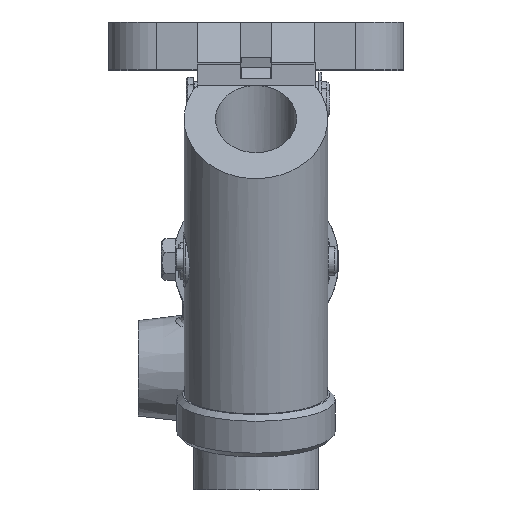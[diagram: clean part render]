
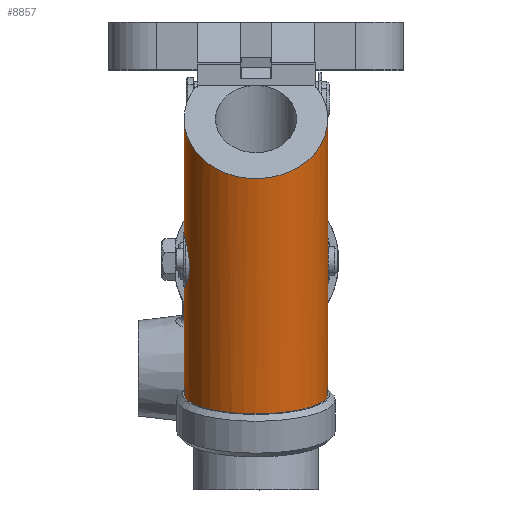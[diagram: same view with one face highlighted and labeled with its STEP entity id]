
A CAD part, top view. The second image highlights one B-rep face of the part: STEP entity #8857.
In plain terms, the highlighted cylindrical face has radius 19.5 mm (diameter 39 mm), a partial arc.
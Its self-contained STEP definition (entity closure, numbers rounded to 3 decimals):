
#49=ELLIPSE('',#9351,20.751,19.5);
#50=ELLIPSE('',#9356,20.751,19.5);
#51=ELLIPSE('',#9359,20.751,19.5);
#52=ELLIPSE('',#9362,22.517,19.5);
#53=ELLIPSE('',#9365,20.751,19.5);
#119=LINE('',#12530,#560);
#120=LINE('',#12531,#561);
#124=LINE('',#12541,#565);
#125=LINE('',#12543,#566);
#127=LINE('',#12549,#568);
#128=LINE('',#12553,#569);
#131=LINE('',#12561,#572);
#560=VECTOR('',#10364,1000.);
#561=VECTOR('',#10365,1000.);
#565=VECTOR('',#10375,1000.);
#566=VECTOR('',#10376,1000.);
#568=VECTOR('',#10384,1000.);
#569=VECTOR('',#10391,1000.);
#572=VECTOR('',#10400,1000.);
#945=B_SPLINE_CURVE_WITH_KNOTS('',3,(#12563,#12564,#12565,#12566,#12567,
#12568),.UNSPECIFIED.,.F.,.F.,(4,1,1,4),(0.039,0.043,
0.045,0.047),.UNSPECIFIED.);
#946=B_SPLINE_CURVE_WITH_KNOTS('',3,(#12570,#12571,#12572,#12573,#12574),
 .UNSPECIFIED.,.F.,.F.,(4,1,4),(0.,0.004,0.009),
 .UNSPECIFIED.);
#947=B_SPLINE_CURVE_WITH_KNOTS('',3,(#12578,#12579,#12580,#12581,#12582),
 .UNSPECIFIED.,.F.,.F.,(4,1,4),(0.032,0.036,0.039),
 .UNSPECIFIED.);
#948=B_SPLINE_CURVE_WITH_KNOTS('',3,(#12584,#12585,#12586,#12587,#12588,
#12589,#12590),.UNSPECIFIED.,.F.,.F.,(4,1,1,1,4),(0.015,0.019,
0.024,0.028,0.032),.UNSPECIFIED.);
#949=B_SPLINE_CURVE_WITH_KNOTS('',3,(#12592,#12593,#12594,#12595,#12596),
 .UNSPECIFIED.,.F.,.F.,(4,1,4),(0.009,0.012,
0.015),.UNSPECIFIED.);
#1491=ORIENTED_EDGE('',*,*,#3235,.F.);
#1492=ORIENTED_EDGE('',*,*,#3234,.T.);
#1493=ORIENTED_EDGE('',*,*,#3231,.T.);
#1494=ORIENTED_EDGE('',*,*,#3230,.T.);
#1495=ORIENTED_EDGE('',*,*,#3229,.F.);
#1496=ORIENTED_EDGE('',*,*,#3227,.T.);
#1497=ORIENTED_EDGE('',*,*,#3226,.F.);
#1498=ORIENTED_EDGE('',*,*,#3236,.F.);
#1499=ORIENTED_EDGE('',*,*,#3239,.F.);
#1500=ORIENTED_EDGE('',*,*,#3240,.F.);
#1501=ORIENTED_EDGE('',*,*,#3241,.F.);
#1502=ORIENTED_EDGE('',*,*,#3237,.F.);
#1503=ORIENTED_EDGE('',*,*,#3225,.F.);
#1504=ORIENTED_EDGE('',*,*,#3223,.F.);
#1505=ORIENTED_EDGE('',*,*,#3220,.T.);
#1506=ORIENTED_EDGE('',*,*,#3217,.T.);
#1507=ORIENTED_EDGE('',*,*,#3219,.T.);
#1508=ORIENTED_EDGE('',*,*,#3215,.F.);
#3215=EDGE_CURVE('',#4119,#4120,#49,.T.);
#3217=EDGE_CURVE('',#4121,#4122,#4742,.T.);
#3219=EDGE_CURVE('',#4122,#4120,#119,.F.);
#3220=EDGE_CURVE('',#4123,#4121,#120,.T.);
#3223=EDGE_CURVE('',#4123,#4124,#50,.T.);
#3225=EDGE_CURVE('',#4124,#4126,#124,.F.);
#3226=EDGE_CURVE('',#4126,#4125,#125,.F.);
#3227=EDGE_CURVE('',#4127,#4125,#51,.T.);
#3229=EDGE_CURVE('',#4127,#4100,#127,.F.);
#3230=EDGE_CURVE('',#4101,#4100,#52,.T.);
#3231=EDGE_CURVE('',#4128,#4101,#128,.F.);
#3234=EDGE_CURVE('',#4129,#4128,#53,.T.);
#3235=EDGE_CURVE('',#4129,#4119,#131,.T.);
#3236=EDGE_CURVE('',#4130,#4126,#945,.T.);
#3237=EDGE_CURVE('',#4126,#4131,#946,.T.);
#3239=EDGE_CURVE('',#4132,#4130,#947,.T.);
#3240=EDGE_CURVE('',#4133,#4132,#948,.T.);
#3241=EDGE_CURVE('',#4131,#4133,#949,.T.);
#4100=VERTEX_POINT('',#12461);
#4101=VERTEX_POINT('',#12463);
#4119=VERTEX_POINT('',#12520);
#4120=VERTEX_POINT('',#12522);
#4121=VERTEX_POINT('',#12526);
#4122=VERTEX_POINT('',#12527);
#4123=VERTEX_POINT('',#12532);
#4124=VERTEX_POINT('',#12536);
#4125=VERTEX_POINT('',#12540);
#4126=VERTEX_POINT('',#12542);
#4127=VERTEX_POINT('',#12546);
#4128=VERTEX_POINT('',#12554);
#4129=VERTEX_POINT('',#12558);
#4130=VERTEX_POINT('',#12569);
#4131=VERTEX_POINT('',#12575);
#4132=VERTEX_POINT('',#12583);
#4133=VERTEX_POINT('',#12591);
#4742=CIRCLE('',#9353,19.5);
#5196=EDGE_LOOP('',(#1491,#1492,#1493,#1494,#1495,#1496,#1497,#1498,#1499,
#1500,#1501,#1502,#1503,#1504,#1505,#1506,#1507,#1508));
#5851=FACE_BOUND('',#5196,.T.);
#6446=CYLINDRICAL_SURFACE('',#9369,19.5);
#8857=ADVANCED_FACE('',(#5851),#6446,.T.);
#9351=AXIS2_PLACEMENT_3D('',#12521,#10354,#10355);
#9353=AXIS2_PLACEMENT_3D('',#12525,#10359,#10360);
#9356=AXIS2_PLACEMENT_3D('',#12537,#10370,#10371);
#9359=AXIS2_PLACEMENT_3D('',#12545,#10379,#10380);
#9362=AXIS2_PLACEMENT_3D('',#12551,#10387,#10388);
#9365=AXIS2_PLACEMENT_3D('',#12559,#10396,#10397);
#9369=AXIS2_PLACEMENT_3D('',#12577,#10405,#10406);
#10354=DIRECTION('',(0.,0.81,0.587));
#10355=DIRECTION('',(0.,-0.587,0.81));
#10359=DIRECTION('',(0.,0.962,0.274));
#10360=DIRECTION('',(0.,-0.274,0.962));
#10364=DIRECTION('',(0.,-0.962,-0.274));
#10365=DIRECTION('',(0.,-0.962,-0.274));
#10370=DIRECTION('',(0.,0.81,0.587));
#10371=DIRECTION('',(0.,-0.587,0.81));
#10375=DIRECTION('',(0.,-0.962,-0.274));
#10376=DIRECTION('',(0.,-0.962,-0.274));
#10379=DIRECTION('',(0.,0.997,-0.071));
#10380=DIRECTION('',(0.,-0.071,-0.997));
#10384=DIRECTION('',(0.,-0.962,-0.274));
#10387=DIRECTION('',(0.,-0.696,-0.718));
#10388=DIRECTION('',(0.,-0.718,0.696));
#10391=DIRECTION('',(0.,-0.962,-0.274));
#10396=DIRECTION('',(0.,0.997,-0.071));
#10397=DIRECTION('',(0.,-0.071,-0.997));
#10400=DIRECTION('',(0.,-0.962,-0.274));
#10405=DIRECTION('',(0.,-0.962,-0.274));
#10406=DIRECTION('',(0.,0.274,-0.962));
#12461=CARTESIAN_POINT('',(-16.,47.651,233.039));
#12463=CARTESIAN_POINT('',(16.,47.651,233.039));
#12520=CARTESIAN_POINT('',(18.,-33.045,213.813));
#12521=CARTESIAN_POINT('',(0.,-37.727,220.276));
#12522=CARTESIAN_POINT('',(7.5,-26.489,204.764));
#12525=CARTESIAN_POINT('',(0.,-36.185,220.716));
#12526=CARTESIAN_POINT('',(-7.5,-31.247,203.407));
#12527=CARTESIAN_POINT('',(7.5,-31.247,203.407));
#12530=CARTESIAN_POINT('',(7.5,49.531,226.449));
#12531=CARTESIAN_POINT('',(-7.5,49.531,226.449));
#12532=CARTESIAN_POINT('',(-7.5,-26.489,204.764));
#12536=CARTESIAN_POINT('',(-18.,-33.045,213.813));
#12537=CARTESIAN_POINT('',(0.,-37.727,220.276));
#12540=CARTESIAN_POINT('',(-18.,16.244,227.872));
#12541=CARTESIAN_POINT('',(-18.,46.65,236.546));
#12542=CARTESIAN_POINT('',(-18.,2.415,223.928));
#12543=CARTESIAN_POINT('',(-18.,46.65,236.546));
#12545=CARTESIAN_POINT('',(0.,16.812,235.834));
#12546=CARTESIAN_POINT('',(-16.,15.968,224.001));
#12549=CARTESIAN_POINT('',(-16.,47.651,233.039));
#12551=CARTESIAN_POINT('',(0.,38.404,241.993));
#12553=CARTESIAN_POINT('',(16.,47.651,233.039));
#12554=CARTESIAN_POINT('',(16.,15.968,224.001));
#12558=CARTESIAN_POINT('',(18.,16.244,227.872));
#12559=CARTESIAN_POINT('',(0.,16.812,235.834));
#12561=CARTESIAN_POINT('',(18.,46.65,236.546));
#12563=CARTESIAN_POINT('',(-19.25,7.773,230.019));
#12564=CARTESIAN_POINT('',(-19.04,7.56,228.606));
#12565=CARTESIAN_POINT('',(-18.556,6.629,226.602));
#12566=CARTESIAN_POINT('',(-18.089,4.428,224.719));
#12567=CARTESIAN_POINT('',(-18.,3.117,224.128));
#12568=CARTESIAN_POINT('',(-18.,2.415,223.928));
#12569=CARTESIAN_POINT('',(-19.25,7.773,230.019));
#12570=CARTESIAN_POINT('',(-18.,2.415,223.928));
#12571=CARTESIAN_POINT('',(-18.,1.01,223.527));
#12572=CARTESIAN_POINT('',(-18.39,-1.956,223.573));
#12573=CARTESIAN_POINT('',(-19.041,-4.428,225.193));
#12574=CARTESIAN_POINT('',(-19.25,-5.351,226.275));
#12575=CARTESIAN_POINT('',(-19.25,-5.351,226.275));
#12577=CARTESIAN_POINT('',(0.,44.593,243.758));
#12578=CARTESIAN_POINT('',(-19.25,6.066,236.005));
#12579=CARTESIAN_POINT('',(-19.407,6.76,235.191));
#12580=CARTESIAN_POINT('',(-19.593,7.794,233.265));
#12581=CARTESIAN_POINT('',(-19.406,7.932,231.068));
#12582=CARTESIAN_POINT('',(-19.25,7.773,230.019));
#12583=CARTESIAN_POINT('',(-19.25,6.066,236.005));
#12584=CARTESIAN_POINT('',(-19.25,-7.058,232.261));
#12585=CARTESIAN_POINT('',(-19.039,-6.843,233.682));
#12586=CARTESIAN_POINT('',(-18.392,-5.613,236.332));
#12587=CARTESIAN_POINT('',(-17.804,-1.826,238.768));
#12588=CARTESIAN_POINT('',(-18.392,2.691,238.702));
#12589=CARTESIAN_POINT('',(-19.038,5.132,237.1));
#12590=CARTESIAN_POINT('',(-19.25,6.066,236.005));
#12591=CARTESIAN_POINT('',(-19.25,-7.058,232.261));
#12592=CARTESIAN_POINT('',(-19.25,-5.351,226.275));
#12593=CARTESIAN_POINT('',(-19.405,-6.035,227.079));
#12594=CARTESIAN_POINT('',(-19.594,-7.08,229.013));
#12595=CARTESIAN_POINT('',(-19.407,-7.218,231.205));
#12596=CARTESIAN_POINT('',(-19.25,-7.058,232.261));
